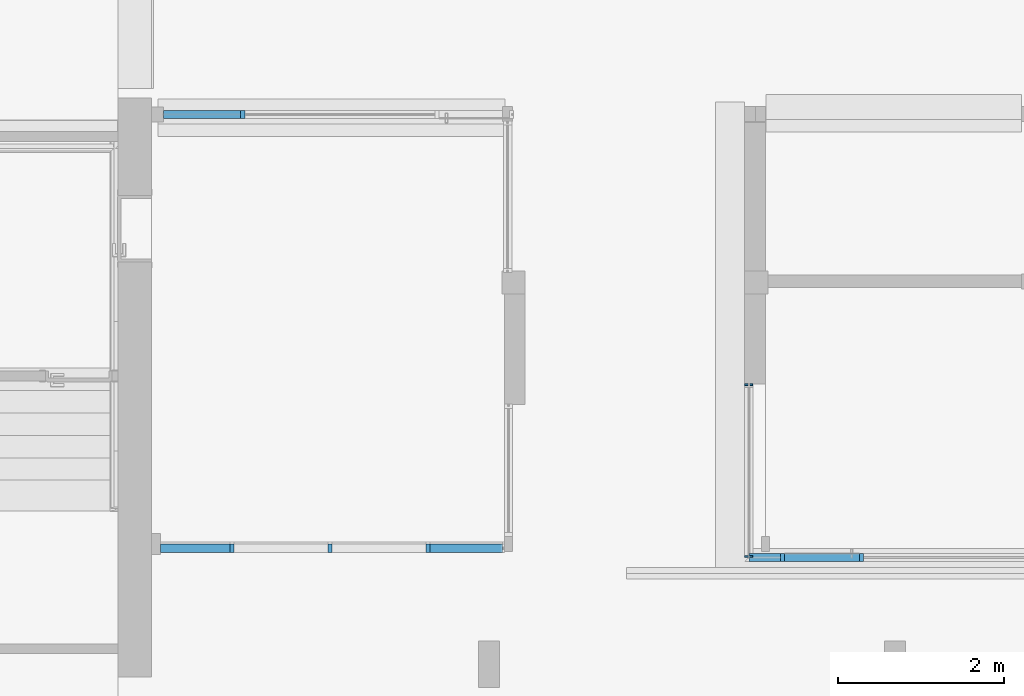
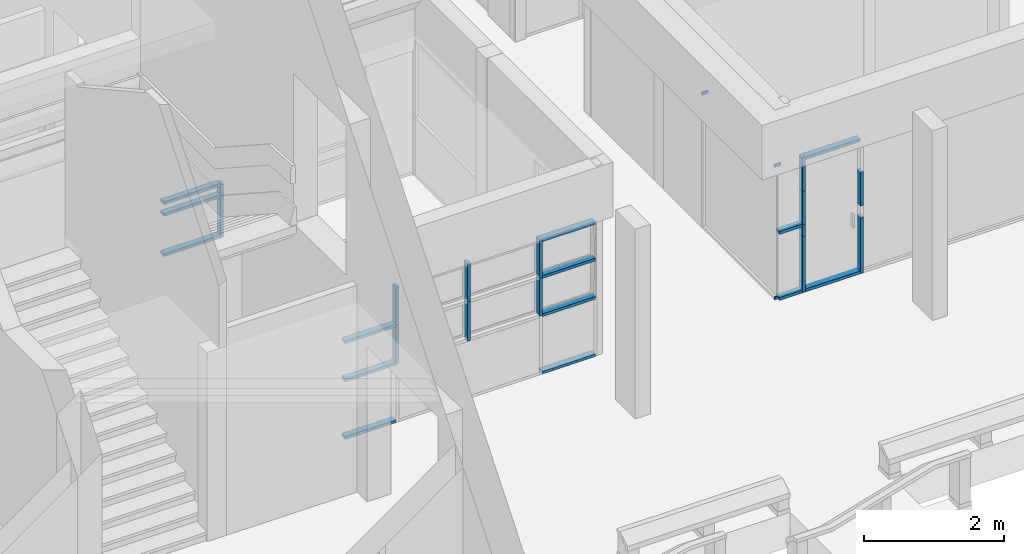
# One storey, part 16 of 117: 31 members, 4 elements without a shape of their own.
"""IFC4 building model written with IfcOpenShell, lengths in metres."""

from ifc_helpers import new_model, entity, si_unit, converted_unit, derived_unit, direction, frame, origin, place, context, subcontext, project, spatial, indexed_curve, outline, extrude, source, transform, mapped, material, type_object, type_shapes, element, aggregate, save


model = new_model("IFC4")

# Units and contexts
model_context = context("Model", 3, precision=1e-05, world=origin(), true_north=direction((6.123031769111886e-17, 1.0)))
body_context = subcontext(model_context, "Body", "Model", "MODEL_VIEW")
ifc_project = project(units=[si_unit("LENGTHUNIT", "METRE"), si_unit("AREAUNIT", "SQUARE_METRE"), si_unit("VOLUMEUNIT", "CUBIC_METRE"), converted_unit("PLANEANGLEUNIT", "DEGREE", entity("IfcRatioMeasure", 0.017453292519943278), si_unit("PLANEANGLEUNIT", "RADIAN"), dimensions=[0, 0, 0, 0, 0, 0, 0]), si_unit("MASSUNIT", "GRAM", prefix="KILO"), derived_unit("MASSDENSITYUNIT", [(si_unit("MASSUNIT", "GRAM", prefix="KILO"), 1), (si_unit("LENGTHUNIT", "METRE"), -3)]), derived_unit("MOMENTOFINERTIAUNIT", [(si_unit("LENGTHUNIT", "METRE"), 4)]), si_unit("TIMEUNIT", "SECOND"), si_unit("FREQUENCYUNIT", "HERTZ"), si_unit("THERMODYNAMICTEMPERATUREUNIT", "DEGREE_CELSIUS"), derived_unit("THERMALTRANSMITTANCEUNIT", [(si_unit("MASSUNIT", "GRAM", prefix="KILO"), 1), (si_unit("THERMODYNAMICTEMPERATUREUNIT", "KELVIN"), -1), (si_unit("TIMEUNIT", "SECOND"), -3)]), derived_unit("VOLUMETRICFLOWRATEUNIT", [(si_unit("LENGTHUNIT", "METRE"), 3), (si_unit("TIMEUNIT", "SECOND"), -1)]), derived_unit("MASSFLOWRATEUNIT", [(si_unit("MASSUNIT", "GRAM", prefix="KILO"), 1), (si_unit("TIMEUNIT", "SECOND"), -1)]), derived_unit("ROTATIONALFREQUENCYUNIT", [(si_unit("TIMEUNIT", "SECOND"), -1)]), si_unit("ELECTRICCURRENTUNIT", "AMPERE"), si_unit("ELECTRICVOLTAGEUNIT", "VOLT"), si_unit("POWERUNIT", "WATT"), si_unit("FORCEUNIT", "NEWTON", prefix="KILO"), si_unit("ILLUMINANCEUNIT", "LUX"), si_unit("LUMINOUSFLUXUNIT", "LUMEN"), si_unit("LUMINOUSINTENSITYUNIT", "CANDELA"), derived_unit("USERDEFINED", [(si_unit("MASSUNIT", "GRAM", prefix="KILO"), -1), (si_unit("LENGTHUNIT", "METRE"), -2), (si_unit("TIMEUNIT", "SECOND"), 3), (si_unit("LUMINOUSFLUXUNIT", "LUMEN"), 1)]), derived_unit("SOUNDPOWERUNIT", [(si_unit("MASSUNIT", "GRAM", prefix="KILO"), 1), (si_unit("LENGTHUNIT", "METRE"), 2), (si_unit("TIMEUNIT", "SECOND"), -3)]), derived_unit("SOUNDPRESSUREUNIT", [(si_unit("MASSUNIT", "GRAM", prefix="KILO"), 1), (si_unit("LENGTHUNIT", "METRE"), -1), (si_unit("TIMEUNIT", "SECOND"), -2)]), derived_unit("LINEARVELOCITYUNIT", [(si_unit("LENGTHUNIT", "METRE"), 1), (si_unit("TIMEUNIT", "SECOND"), -1)]), si_unit("PRESSUREUNIT", "PASCAL"), derived_unit("USERDEFINED", [(si_unit("LENGTHUNIT", "METRE"), -2), (si_unit("MASSUNIT", "GRAM", prefix="KILO"), 1), (si_unit("TIMEUNIT", "SECOND"), -2)]), derived_unit("LINEARFORCEUNIT", [(si_unit("MASSUNIT", "GRAM", prefix="KILO"), 1), (si_unit("LENGTHUNIT", "METRE"), 1), (si_unit("TIMEUNIT", "SECOND"), -2), (si_unit("LENGTHUNIT", "METRE"), -1)]), derived_unit("PLANARFORCEUNIT", [(si_unit("MASSUNIT", "GRAM", prefix="KILO"), 1), (si_unit("LENGTHUNIT", "METRE"), 1), (si_unit("TIMEUNIT", "SECOND"), -2), (si_unit("LENGTHUNIT", "METRE"), -2)])], contexts=[model_context])

# Site, building, storey
site_placement = place(None, origin())
site = spatial("IfcSite", under=ifc_project, at=site_placement, Name="Superficie", CompositionType="ELEMENT")
building_placement = place(site_placement, origin())
building = spatial("IfcBuilding", under=site, at=building_placement, CompositionType="ELEMENT")
storey_placement = place(building_placement, origin())
storey = spatial("IfcBuildingStorey", under=building, at=storey_placement, Name="Nivel 0", CompositionType="ELEMENT", Elevation=0.0)

# Curtain wall, members
curtain_wall_type = type_object("IfcCurtainWallType", Name="Muro cortina:Muro cortina - simple", PredefinedType="NOTDEFINED")
curtain_wall_1_placement = place(storey_placement, origin())
curtain_wall_1 = element("IfcCurtainWall", 1, at=curtain_wall_1_placement, inside=storey, type_object=curtain_wall_type, Name="Muro cortina:Muro cortina - simple", ObjectType="Muro cortina:Muro cortina - simple", PredefinedType="NOTDEFINED")
ifc_material = material(Name="<Unnamed>")
member_type_1 = type_object("IfcMemberType", Name="Montante rectangular:Montante rectangular - 5 x 10 cm", PredefinedType="MULLION", material=ifc_material)
shared_shape_1 = source(origin(), body_context, "Body", "SweptSolid", [
    extrude(outline(indexed_curve([(-0.05, -0.025), (0.05, -0.025), (0.05, 0.025), (-0.05, 0.025), (-0.05, -0.025)], self_intersect=False)), frame((-0.025, 0.0, -0.020000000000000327), z_axis=(0.0, 0.0, 1.0), x_axis=(0.0, -1.0, 0.0)), (0.0, 0.0, 1.0), 0.020000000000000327),
])
type_shapes(member_type_1, [shared_shape_1])
member_1_placement = place(curtain_wall_1_placement, frame((-15.448200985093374, -1.764170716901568, 2.35), z_axis=(0.0, -1.0, 0.0), x_axis=(0.0, 0.0, 1.0)))
member_1 = element("IfcMember", 2, at=member_1_placement, type_object=member_type_1, material=ifc_material, Name="Montante rectangular:Montante rectangular - 5 x 10 cm", ObjectType="Montante rectangular:Montante rectangular - 5 x 10 cm", PredefinedType="MULLION", context=body_context, shape_type="MappedRepresentation", body=[
    mapped(shared_shape_1, transform((0.0, 0.0, 0.0), scale=1.0)),
])
member_type_2 = type_object("IfcMemberType", Name="Montante rectangular:Montante rectangular - 5 x 10 cm", PredefinedType="MULLION", material=ifc_material)
shared_shape_2 = source(origin(), body_context, "Body", "SweptSolid", [
    extrude(outline(indexed_curve([(-0.05, -0.025), (0.05, -0.025), (0.05, 0.025), (-0.05, 0.025), (-0.05, -0.025)], self_intersect=False)), frame((-0.025, 0.0, -0.020000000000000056), z_axis=(0.0, 0.0, 1.0), x_axis=(0.0, -1.0, 0.0)), (0.0, 0.0, 1.0), 0.020000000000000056),
])
type_shapes(member_type_2, [shared_shape_2])
member_2_placement = place(curtain_wall_1_placement, frame((-15.44820098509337, 0.305829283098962, 2.35), z_axis=(0.0, -1.0, 0.0), x_axis=(0.0, 0.0, 1.0)))
member_2 = element("IfcMember", 3, at=member_2_placement, type_object=member_type_2, material=ifc_material, Name="Montante rectangular:Montante rectangular - 5 x 10 cm", ObjectType="Montante rectangular:Montante rectangular - 5 x 10 cm", PredefinedType="MULLION", context=body_context, shape_type="MappedRepresentation", body=[
    mapped(shared_shape_2, transform((0.0, 0.0, 0.0), scale=1.0)),
])
member_type_3 = type_object("IfcMemberType", Name="Montante rectangular:Montante rectangular - 5 x 10 cm", PredefinedType="MULLION", material=ifc_material)
shared_shape_3 = source(origin(), body_context, "Body", "SweptSolid", [
    extrude(outline(indexed_curve([(-0.05, -0.025), (0.05, -0.025), (0.05, 0.025), (-0.05, 0.025), (-0.05, -0.025)], self_intersect=False)), frame((0.0, 0.0, -0.020000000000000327), z_axis=(0.0, 0.0, 1.0), x_axis=(0.0, -1.0, 0.0)), (0.0, 0.0, 1.0), 0.020000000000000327),
])
type_shapes(member_type_3, [shared_shape_3])
member_3_placement = place(curtain_wall_1_placement, frame((-15.448200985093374, -1.764170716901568, 0.019999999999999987), z_axis=(0.0, -1.0, 0.0), x_axis=(0.0, 0.0, 1.0)))
member_3 = element("IfcMember", 4, at=member_3_placement, type_object=member_type_3, material=ifc_material, Name="Montante rectangular:Montante rectangular - 5 x 10 cm", ObjectType="Montante rectangular:Montante rectangular - 5 x 10 cm", PredefinedType="MULLION", context=body_context, shape_type="MappedRepresentation", body=[
    mapped(shared_shape_3, transform((0.0, 0.0, 0.0), scale=1.0)),
])
aggregate(curtain_wall_1, [member_1, member_2, member_3])

curtain_wall_2_placement = place(storey_placement, origin())
curtain_wall_2 = element("IfcCurtainWall", 5, at=curtain_wall_2_placement, inside=storey, type_object=curtain_wall_type, Name="Muro cortina:Muro cortina - simple", ObjectType="Muro cortina:Muro cortina - simple", PredefinedType="NOTDEFINED")
member_type_4 = type_object("IfcMemberType", Name="Montante rectangular:Montante rectangular - 5 x 10 cm", PredefinedType="MULLION", material=ifc_material)
shared_shape_4 = source(origin(), body_context, "Body", "SweptSolid", [
    extrude(outline(indexed_curve([(-0.05, -0.025), (0.05, -0.025), (0.05, 0.025), (-0.05, 0.025), (-0.05, -0.025)], self_intersect=False)), frame((0.0, 0.0, -0.8749999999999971), z_axis=(0.0, 0.0, 1.0), x_axis=(0.0, -1.0, 0.0)), (0.0, 0.0, 1.0), 0.874999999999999),
])
type_shapes(member_type_4, [shared_shape_4])
member_4_placement = place(curtain_wall_2_placement, frame((-19.28820098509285, -1.6541707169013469, 0.019999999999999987), z_axis=(-1.0, 0.0, 0.0), x_axis=(0.0, 0.0, 1.0)))
member_4 = element("IfcMember", 6, at=member_4_placement, type_object=member_type_4, material=ifc_material, Name="Montante rectangular:Montante rectangular - 5 x 10 cm", ObjectType="Montante rectangular:Montante rectangular - 5 x 10 cm", PredefinedType="MULLION", context=body_context, shape_type="MappedRepresentation", body=[
    mapped(shared_shape_4, transform((0.0, 0.0, 0.0), scale=1.0)),
])
member_5_placement = place(curtain_wall_2_placement, frame((-19.28820098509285, -1.6541707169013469, 1.0200000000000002), z_axis=(-1.0, 0.0, 0.0), x_axis=(0.0, 0.0, 1.0)))
member_5 = element("IfcMember", 7, at=member_5_placement, type_object=member_type_4, material=ifc_material, Name="Montante rectangular:Montante rectangular - 5 x 10 cm", ObjectType="Montante rectangular:Montante rectangular - 5 x 10 cm", PredefinedType="MULLION", context=body_context, shape_type="MappedRepresentation", body=[
    mapped(shared_shape_4, transform((0.0, 0.0, 0.0), scale=1.0)),
])
member_6_placement = place(curtain_wall_2_placement, frame((-19.28820098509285, -1.6541707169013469, 1.685), z_axis=(-1.0, 0.0, 0.0), x_axis=(0.0, 0.0, 1.0)))
member_6 = element("IfcMember", 8, at=member_6_placement, type_object=member_type_4, material=ifc_material, Name="Montante rectangular:Montante rectangular - 5 x 10 cm", ObjectType="Montante rectangular:Montante rectangular - 5 x 10 cm", PredefinedType="MULLION", context=body_context, shape_type="MappedRepresentation", body=[
    mapped(shared_shape_4, transform((0.0, 0.0, 0.0), scale=1.0)),
])
member_type_5 = type_object("IfcMemberType", Name="Montante rectangular:Montante rectangular - 5 x 10 cm", PredefinedType="MULLION", material=ifc_material)
shared_shape_5 = source(origin(), body_context, "Body", "SweptSolid", [
    extrude(outline(indexed_curve([(-0.05, -0.025), (0.05, -0.025), (0.05, 0.025), (-0.05, 0.025), (-0.05, -0.025)], self_intersect=False)), frame((0.0, 0.0, -0.8344348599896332), z_axis=(0.0, 0.0, 1.0), x_axis=(0.0, -1.0, 0.0)), (0.0, 0.0, 1.0), 0.8344348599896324),
])
type_shapes(member_type_5, [shared_shape_5])
member_7_placement = place(curtain_wall_2_placement, frame((-22.532635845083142, -1.6541707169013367, 0.019999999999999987), z_axis=(-1.0, 0.0, 0.0), x_axis=(0.0, 0.0, 1.0)))
member_7 = element("IfcMember", 9, at=member_7_placement, type_object=member_type_5, material=ifc_material, Name="Montante rectangular:Montante rectangular - 5 x 10 cm", ObjectType="Montante rectangular:Montante rectangular - 5 x 10 cm", PredefinedType="MULLION", context=body_context, shape_type="MappedRepresentation", body=[
    mapped(shared_shape_5, transform((0.0, 0.0, 0.0), scale=1.0)),
])
member_8_placement = place(curtain_wall_2_placement, frame((-22.532635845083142, -1.6541707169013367, 1.0200000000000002), z_axis=(-1.0, 0.0, 0.0), x_axis=(0.0, 0.0, 1.0)))
member_8 = element("IfcMember", 10, at=member_8_placement, type_object=member_type_5, material=ifc_material, Name="Montante rectangular:Montante rectangular - 5 x 10 cm", ObjectType="Montante rectangular:Montante rectangular - 5 x 10 cm", PredefinedType="MULLION", context=body_context, shape_type="MappedRepresentation", body=[
    mapped(shared_shape_5, transform((0.0, 0.0, 0.0), scale=1.0)),
])
member_9_placement = place(curtain_wall_2_placement, frame((-22.532635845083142, -1.6541707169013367, 1.685), z_axis=(-1.0, 0.0, 0.0), x_axis=(0.0, 0.0, 1.0)))
member_9 = element("IfcMember", 11, at=member_9_placement, type_object=member_type_5, material=ifc_material, Name="Montante rectangular:Montante rectangular - 5 x 10 cm", ObjectType="Montante rectangular:Montante rectangular - 5 x 10 cm", PredefinedType="MULLION", context=body_context, shape_type="MappedRepresentation", body=[
    mapped(shared_shape_5, transform((0.0, 0.0, 0.0), scale=1.0)),
])
member_type_6 = type_object("IfcMemberType", Name="Montante rectangular:Montante rectangular - 5 x 10 cm", PredefinedType="MULLION", material=ifc_material)
shared_shape_6 = source(origin(), body_context, "Body", "SweptSolid", [
    extrude(outline(indexed_curve([(-0.05, -0.025), (0.05, -0.025), (0.05, 0.025), (-0.05, 0.025), (-0.05, -0.025)], self_intersect=False)), frame((-0.025, 0.0, -0.8749999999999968), z_axis=(0.0, 0.0, 1.0), x_axis=(0.0, -1.0, 0.0)), (0.0, 0.0, 1.0), 0.8749999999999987),
])
type_shapes(member_type_6, [shared_shape_6])
member_10_placement = place(curtain_wall_2_placement, frame((-19.28820098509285, -1.6541707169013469, 2.35), z_axis=(-1.0, 0.0, 0.0), x_axis=(0.0, 0.0, 1.0)))
member_10 = element("IfcMember", 12, at=member_10_placement, type_object=member_type_6, material=ifc_material, Name="Montante rectangular:Montante rectangular - 5 x 10 cm", ObjectType="Montante rectangular:Montante rectangular - 5 x 10 cm", PredefinedType="MULLION", context=body_context, shape_type="MappedRepresentation", body=[
    mapped(shared_shape_6, transform((0.0, 0.0, 0.0), scale=1.0)),
])
member_type_7 = type_object("IfcMemberType", Name="Montante rectangular:Montante rectangular - 5 x 10 cm", PredefinedType="MULLION", material=ifc_material)
shared_shape_7 = source(origin(), body_context, "Body", "SweptSolid", [
    extrude(outline(indexed_curve([(-0.05, -0.025), (0.05, -0.025), (0.05, 0.025), (-0.05, 0.025), (-0.05, -0.025)], self_intersect=False)), frame((0.0, 0.0, -0.6649999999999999), z_axis=(0.0, 0.0, 1.0), x_axis=(0.0, -1.0, 0.0)), (0.0, 0.0, 1.0), 0.6649999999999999),
])
type_shapes(member_type_7, [shared_shape_7])
member_11_placement = place(curtain_wall_2_placement, frame((-21.67320098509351, -1.6541707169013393, 1.0200000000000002), z_axis=(0.0, 0.0, -1.0), x_axis=(-1.0, 0.0, 0.0)))
member_11 = element("IfcMember", 13, at=member_11_placement, type_object=member_type_7, material=ifc_material, Name="Montante rectangular:Montante rectangular - 5 x 10 cm", ObjectType="Montante rectangular:Montante rectangular - 5 x 10 cm", PredefinedType="MULLION", context=body_context, shape_type="MappedRepresentation", body=[
    mapped(shared_shape_7, transform((0.0, 0.0, 0.0), scale=1.0)),
])
member_12_placement = place(curtain_wall_2_placement, frame((-19.31320098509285, -1.6541707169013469, 1.0200000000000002), z_axis=(0.0, 0.0, -1.0), x_axis=(-1.0, 0.0, 0.0)))
member_12 = element("IfcMember", 14, at=member_12_placement, type_object=member_type_7, material=ifc_material, Name="Montante rectangular:Montante rectangular - 5 x 10 cm", ObjectType="Montante rectangular:Montante rectangular - 5 x 10 cm", PredefinedType="MULLION", context=body_context, shape_type="MappedRepresentation", body=[
    mapped(shared_shape_7, transform((0.0, 0.0, 0.0), scale=1.0)),
])
member_type_8 = type_object("IfcMemberType", Name="Montante rectangular:Montante rectangular - 5 x 10 cm", PredefinedType="MULLION", material=ifc_material)
shared_shape_8 = source(origin(), body_context, "Body", "SweptSolid", [
    extrude(outline(indexed_curve([(-0.05, -0.025), (0.05, -0.025), (0.05, 0.025), (-0.05, 0.025), (-0.05, -0.025)], self_intersect=False)), frame((0.0, 0.0, -0.6649999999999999), z_axis=(0.0, 0.0, 1.0), x_axis=(0.0, -1.0, 0.0)), (0.0, 0.0, 1.0), 0.6649999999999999),
])
type_shapes(member_type_8, [shared_shape_8])
member_13_placement = place(curtain_wall_2_placement, frame((-21.67320098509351, -1.6541707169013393, 1.685), z_axis=(0.0, 0.0, -1.0), x_axis=(-1.0, 0.0, 0.0)))
member_13 = element("IfcMember", 15, at=member_13_placement, type_object=member_type_8, material=ifc_material, Name="Montante rectangular:Montante rectangular - 5 x 10 cm", ObjectType="Montante rectangular:Montante rectangular - 5 x 10 cm", PredefinedType="MULLION", context=body_context, shape_type="MappedRepresentation", body=[
    mapped(shared_shape_8, transform((0.0, 0.0, 0.0), scale=1.0)),
])
member_14_placement = place(curtain_wall_2_placement, frame((-19.31320098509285, -1.6541707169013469, 1.685), z_axis=(0.0, 0.0, -1.0), x_axis=(-1.0, 0.0, 0.0)))
member_14 = element("IfcMember", 16, at=member_14_placement, type_object=member_type_8, material=ifc_material, Name="Montante rectangular:Montante rectangular - 5 x 10 cm", ObjectType="Montante rectangular:Montante rectangular - 5 x 10 cm", PredefinedType="MULLION", context=body_context, shape_type="MappedRepresentation", body=[
    mapped(shared_shape_8, transform((0.0, 0.0, 0.0), scale=1.0)),
])
member_15_placement = place(curtain_wall_2_placement, frame((-20.49320098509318, -1.654170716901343, 1.685), z_axis=(0.0, 0.0, -1.0), x_axis=(-1.0, 0.0, 0.0)))
member_15 = element("IfcMember", 17, at=member_15_placement, type_object=member_type_8, material=ifc_material, Name="Montante rectangular:Montante rectangular - 5 x 10 cm", ObjectType="Montante rectangular:Montante rectangular - 5 x 10 cm", PredefinedType="MULLION", context=body_context, shape_type="MappedRepresentation", body=[
    mapped(shared_shape_8, transform((0.0, 0.0, 0.0), scale=1.0)),
])
member_type_9 = type_object("IfcMemberType", Name="Montante rectangular:Montante rectangular - 5 x 10 cm", PredefinedType="MULLION", material=ifc_material)
shared_shape_9 = source(origin(), body_context, "Body", "SweptSolid", [
    extrude(outline(indexed_curve([(-0.05, -0.025), (0.05, -0.025), (0.05, 0.025), (-0.05, 0.025), (-0.05, -0.025)], self_intersect=False)), frame((0.0, 0.0, -0.6900000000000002), z_axis=(0.0, 0.0, 1.0), x_axis=(0.0, -1.0, 0.0)), (0.0, 0.0, 1.0), 0.6900000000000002),
])
type_shapes(member_type_9, [shared_shape_9])
member_16_placement = place(curtain_wall_2_placement, frame((-20.49320098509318, -1.654170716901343, 0.9950000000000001), z_axis=(0.0, 0.0, -1.0), x_axis=(-1.0, 0.0, 0.0)))
member_16 = element("IfcMember", 18, at=member_16_placement, type_object=member_type_9, material=ifc_material, Name="Montante rectangular:Montante rectangular - 5 x 10 cm", ObjectType="Montante rectangular:Montante rectangular - 5 x 10 cm", PredefinedType="MULLION", context=body_context, shape_type="MappedRepresentation", body=[
    mapped(shared_shape_9, transform((0.0, 0.0, 0.0), scale=1.0)),
])
aggregate(curtain_wall_2, [member_4, member_5, member_7, member_8, member_10, member_11, member_12, member_13, member_14, member_9, member_6, member_15, member_16])

curtain_wall_3_placement = place(storey_placement, origin())
curtain_wall_3 = element("IfcCurtainWall", 19, at=curtain_wall_3_placement, inside=storey, type_object=curtain_wall_type, Name="Muro cortina:Muro cortina - simple", ObjectType="Muro cortina:Muro cortina - simple", PredefinedType="NOTDEFINED")
member_type_10 = type_object("IfcMemberType", Name="Montante rectangular:Montante rectangular - 5 x 10 cm", PredefinedType="MULLION", material=ifc_material)
shared_shape_10 = source(origin(), body_context, "Body", "SweptSolid", [
    extrude(outline(indexed_curve([(-0.05, -0.025), (0.05, -0.025), (0.05, 0.025), (-0.05, 0.025), (-0.05, -0.025)], self_intersect=False)), frame((0.0, 0.0, -0.19999999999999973), z_axis=(0.0, 0.0, 1.0), x_axis=(0.0, -1.0, 0.0)), (0.0, 0.0, 1.0), 0.19999999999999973),
])
type_shapes(member_type_10, [shared_shape_10])
member_17_placement = place(curtain_wall_3_placement, frame((-21.54320098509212, 3.570829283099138, 0.7199999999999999), z_axis=(0.0, 0.0, -1.0), x_axis=(-1.0, 0.0, 0.0)))
member_17 = element("IfcMember", 20, at=member_17_placement, type_object=member_type_10, material=ifc_material, Name="Montante rectangular:Montante rectangular - 5 x 10 cm", ObjectType="Montante rectangular:Montante rectangular - 5 x 10 cm", PredefinedType="MULLION", context=body_context, shape_type="MappedRepresentation", body=[
    mapped(shared_shape_10, transform((0.0, 0.0, 0.0), scale=1.0)),
])
member_type_11 = type_object("IfcMemberType", Name="Montante rectangular:Montante rectangular - 5 x 10 cm", PredefinedType="MULLION", material=ifc_material)
shared_shape_11 = source(origin(), body_context, "Body", "SweptSolid", [
    extrude(outline(indexed_curve([(-0.05, -0.025), (0.05, -0.025), (0.05, 0.025), (-0.05, 0.025), (-0.05, -0.025)], self_intersect=False)), frame((0.0, 0.0, -0.7249999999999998), z_axis=(0.0, 0.0, 1.0), x_axis=(0.0, -1.0, 0.0)), (0.0, 0.0, 1.0), 0.7249999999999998),
])
type_shapes(member_type_11, [shared_shape_11])
member_18_placement = place(curtain_wall_3_placement, frame((-21.54320098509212, 3.570829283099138, -0.004999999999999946), z_axis=(0.0, 0.0, -1.0), x_axis=(-1.0, 0.0, 0.0)))
member_18 = element("IfcMember", 21, at=member_18_placement, type_object=member_type_11, material=ifc_material, Name="Montante rectangular:Montante rectangular - 5 x 10 cm", ObjectType="Montante rectangular:Montante rectangular - 5 x 10 cm", PredefinedType="MULLION", context=body_context, shape_type="MappedRepresentation", body=[
    mapped(shared_shape_11, transform((0.0, 0.0, 0.0), scale=1.0)),
])
member_type_12 = type_object("IfcMemberType", Name="Montante rectangular:Montante rectangular - 5 x 10 cm", PredefinedType="MULLION", material=ifc_material)
shared_shape_12 = source(origin(), body_context, "Body", "SweptSolid", [
    extrude(outline(indexed_curve([(-0.05, -0.025), (0.05, -0.025), (0.05, 0.025), (-0.05, 0.025), (-0.05, -0.025)], self_intersect=False)), frame((0.0, 0.0, -0.9302918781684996), z_axis=(0.0, 0.0, 1.0), x_axis=(0.0, -1.0, 0.0)), (0.0, 0.0, 1.0), 0.9302918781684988),
])
type_shapes(member_type_12, [shared_shape_12])
member_19_placement = place(curtain_wall_3_placement, frame((-22.49849286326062, 3.5708292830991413, 0.92), z_axis=(-1.0, 0.0, 0.0), x_axis=(0.0, 0.0, 1.0)))
member_19 = element("IfcMember", 22, at=member_19_placement, type_object=member_type_12, material=ifc_material, Name="Montante rectangular:Montante rectangular - 5 x 10 cm", ObjectType="Montante rectangular:Montante rectangular - 5 x 10 cm", PredefinedType="MULLION", context=body_context, shape_type="MappedRepresentation", body=[
    mapped(shared_shape_12, transform((0.0, 0.0, 0.0), scale=1.0)),
])
member_20_placement = place(curtain_wall_3_placement, frame((-22.49849286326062, 3.5708292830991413, 0.72), z_axis=(-1.0, 0.0, 0.0), x_axis=(0.0, 0.0, 1.0)))
member_20 = element("IfcMember", 23, at=member_20_placement, type_object=member_type_12, material=ifc_material, Name="Montante rectangular:Montante rectangular - 5 x 10 cm", ObjectType="Montante rectangular:Montante rectangular - 5 x 10 cm", PredefinedType="MULLION", context=body_context, shape_type="MappedRepresentation", body=[
    mapped(shared_shape_12, transform((0.0, 0.0, 0.0), scale=1.0)),
])
member_21_placement = place(curtain_wall_3_placement, frame((-22.49849286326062, 3.5708292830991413, 0.020000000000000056), z_axis=(-1.0, 0.0, 0.0), x_axis=(0.0, 0.0, 1.0)))
member_21 = element("IfcMember", 24, at=member_21_placement, type_object=member_type_12, material=ifc_material, Name="Montante rectangular:Montante rectangular - 5 x 10 cm", ObjectType="Montante rectangular:Montante rectangular - 5 x 10 cm", PredefinedType="MULLION", context=body_context, shape_type="MappedRepresentation", body=[
    mapped(shared_shape_12, transform((0.0, 0.0, 0.0), scale=1.0)),
])
aggregate(curtain_wall_3, [member_19, member_20, member_17, member_18, member_21])

curtain_wall_4_placement = place(storey_placement, origin())
curtain_wall_4 = element("IfcCurtainWall", 25, at=curtain_wall_4_placement, inside=storey, type_object=curtain_wall_type, Name="Muro cortina:Muro cortina - simple", ObjectType="Muro cortina:Muro cortina - simple", PredefinedType="NOTDEFINED")
member_type_13 = type_object("IfcMemberType", Name="Montante rectangular:Montante rectangular - 5 x 10 cm", PredefinedType="MULLION", material=ifc_material)
shared_shape_13 = source(origin(), body_context, "Body", "SweptSolid", [
    extrude(outline(indexed_curve([(-0.05, -0.025), (0.05, -0.025), (0.05, 0.025), (-0.05, 0.025), (-0.05, -0.025)], self_intersect=False)), frame((0.0, 0.0, -0.2), z_axis=(0.0, 0.0, 1.0), x_axis=(0.0, -1.0, 0.0)), (0.0, 0.0, 1.0), 0.2),
])
type_shapes(member_type_13, [shared_shape_13])
member_22_placement = place(curtain_wall_4_placement, frame((-15.043200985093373, -1.7641707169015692, 0.9750000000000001), z_axis=(0.0, 0.0, -1.0), x_axis=(1.0, 0.0, 0.0)))
member_22 = element("IfcMember", 26, at=member_22_placement, type_object=member_type_13, material=ifc_material, Name="Montante rectangular:Montante rectangular - 5 x 10 cm", ObjectType="Montante rectangular:Montante rectangular - 5 x 10 cm", PredefinedType="MULLION", context=body_context, shape_type="MappedRepresentation", body=[
    mapped(shared_shape_13, transform((0.0, 0.0, 0.0), scale=1.0)),
])
member_type_14 = type_object("IfcMemberType", Name="Montante rectangular:Montante rectangular - 5 x 10 cm", PredefinedType="MULLION", material=ifc_material)
shared_shape_14 = source(origin(), body_context, "Body", "SweptSolid", [
    extrude(outline(indexed_curve([(-0.05, -0.025), (0.05, -0.025), (0.05, 0.025), (-0.05, 0.025), (-0.05, -0.025)], self_intersect=False)), frame((-0.025, 0.0, -0.38000000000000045), z_axis=(0.0, 0.0, 1.0), x_axis=(0.0, -1.0, 0.0)), (0.0, 0.0, 1.0), 0.38000000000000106),
])
type_shapes(member_type_14, [shared_shape_14])
member_23_placement = place(curtain_wall_4_placement, frame((-15.448200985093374, -1.764170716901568, 0.0), z_axis=(-1.0, 0.0, 0.0), x_axis=(0.0, 0.0, -1.0)))
member_23 = element("IfcMember", 27, at=member_23_placement, type_object=member_type_14, material=ifc_material, Name="Montante rectangular:Montante rectangular - 5 x 10 cm", ObjectType="Montante rectangular:Montante rectangular - 5 x 10 cm", PredefinedType="MULLION", context=body_context, shape_type="MappedRepresentation", body=[
    mapped(shared_shape_14, transform((0.0, 0.0, 0.0), scale=1.0)),
])
member_type_15 = type_object("IfcMemberType", Name="Montante rectangular:Montante rectangular - 5 x 10 cm", PredefinedType="MULLION", material=ifc_material)
shared_shape_15 = source(origin(), body_context, "Body", "SweptSolid", [
    extrude(outline(indexed_curve([(-0.05, -0.025), (0.05, -0.025), (0.05, 0.025), (-0.05, 0.025), (-0.05, -0.025)], self_intersect=False)), frame((0.0, 0.0, -0.9750000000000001), z_axis=(0.0, 0.0, 1.0), x_axis=(0.0, -1.0, 0.0)), (0.0, 0.0, 1.0), 0.9750000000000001),
])
type_shapes(member_type_15, [shared_shape_15])
member_24_placement = place(curtain_wall_4_placement, frame((-14.093200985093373, -1.7641707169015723, 0.0), z_axis=(0.0, 0.0, -1.0), x_axis=(1.0, 0.0, 0.0)))
member_24 = element("IfcMember", 28, at=member_24_placement, type_object=member_type_15, material=ifc_material, Name="Montante rectangular:Montante rectangular - 5 x 10 cm", ObjectType="Montante rectangular:Montante rectangular - 5 x 10 cm", PredefinedType="MULLION", context=body_context, shape_type="MappedRepresentation", body=[
    mapped(shared_shape_15, transform((0.0, 0.0, 0.0), scale=1.0)),
])
member_25_placement = place(curtain_wall_4_placement, frame((-15.043200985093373, -1.7641707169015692, 0.0), z_axis=(0.0, 0.0, -1.0), x_axis=(1.0, 0.0, 0.0)))
member_25 = element("IfcMember", 29, at=member_25_placement, type_object=member_type_15, material=ifc_material, Name="Montante rectangular:Montante rectangular - 5 x 10 cm", ObjectType="Montante rectangular:Montante rectangular - 5 x 10 cm", PredefinedType="MULLION", context=body_context, shape_type="MappedRepresentation", body=[
    mapped(shared_shape_15, transform((0.0, 0.0, 0.0), scale=1.0)),
])
member_type_16 = type_object("IfcMemberType", Name="Montante rectangular:Montante rectangular - 5 x 10 cm", PredefinedType="MULLION", material=ifc_material)
shared_shape_16 = source(origin(), body_context, "Body", "SweptSolid", [
    extrude(outline(indexed_curve([(-0.05, -0.025), (0.05, -0.025), (0.05, 0.025), (-0.05, 0.025), (-0.05, -0.025)], self_intersect=False)), frame((-0.025, 0.0, -0.8999999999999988), z_axis=(0.0, 0.0, 1.0), x_axis=(0.0, -1.0, 0.0)), (0.0, 0.0, 1.0), 0.9000000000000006),
])
type_shapes(member_type_16, [shared_shape_16])
member_26_placement = place(curtain_wall_4_placement, frame((-15.018200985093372, -1.7641707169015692, 0.0), z_axis=(-1.0, 0.0, 0.0), x_axis=(0.0, 0.0, -1.0)))
member_26 = element("IfcMember", 30, at=member_26_placement, type_object=member_type_16, material=ifc_material, Name="Montante rectangular:Montante rectangular - 5 x 10 cm", ObjectType="Montante rectangular:Montante rectangular - 5 x 10 cm", PredefinedType="MULLION", context=body_context, shape_type="MappedRepresentation", body=[
    mapped(shared_shape_16, transform((0.0, 0.0, 0.0), scale=1.0)),
])
member_type_17 = type_object("IfcMemberType", Name="Montante rectangular:Montante rectangular - 5 x 10 cm", PredefinedType="MULLION", material=ifc_material)
shared_shape_17 = source(origin(), body_context, "Body", "SweptSolid", [
    extrude(outline(indexed_curve([(-0.05, -0.025), (0.05, -0.025), (0.05, 0.025), (-0.05, 0.025), (-0.05, -0.025)], self_intersect=False)), frame((-0.025, 0.0, -0.9000000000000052), z_axis=(0.0, 0.0, 1.0), x_axis=(0.0, -1.0, 0.0)), (0.0, 0.0, 1.0), 0.9000000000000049),
])
type_shapes(member_type_17, [shared_shape_17])
member_27_placement = place(curtain_wall_4_placement, frame((-14.118200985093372, -1.7641707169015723, 2.35), z_axis=(1.0, 0.0, 0.0), x_axis=(0.0, 0.0, 1.0)))
member_27 = element("IfcMember", 31, at=member_27_placement, type_object=member_type_17, material=ifc_material, Name="Montante rectangular:Montante rectangular - 5 x 10 cm", ObjectType="Montante rectangular:Montante rectangular - 5 x 10 cm", PredefinedType="MULLION", context=body_context, shape_type="MappedRepresentation", body=[
    mapped(shared_shape_17, transform((0.0, 0.0, 0.0), scale=1.0)),
])
member_type_18 = type_object("IfcMemberType", Name="Montante rectangular:Montante rectangular - 5 x 10 cm", PredefinedType="MULLION", material=ifc_material)
shared_shape_18 = source(origin(), body_context, "Body", "SweptSolid", [
    extrude(outline(indexed_curve([(-0.05, -0.025), (0.05, -0.025), (0.05, 0.025), (-0.05, 0.025), (-0.05, -0.025)], self_intersect=False)), frame((0.0, 0.0, -0.5874999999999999), z_axis=(0.0, 0.0, 1.0), x_axis=(0.0, -1.0, 0.0)), (0.0, 0.0, 1.0), 0.5874999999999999),
])
type_shapes(member_type_18, [shared_shape_18])
member_28_placement = place(curtain_wall_4_placement, frame((-14.093200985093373, -1.7641707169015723, 1.175), z_axis=(0.0, 0.0, -1.0), x_axis=(1.0, 0.0, 0.0)))
member_28 = element("IfcMember", 32, at=member_28_placement, type_object=member_type_18, material=ifc_material, Name="Montante rectangular:Montante rectangular - 5 x 10 cm", ObjectType="Montante rectangular:Montante rectangular - 5 x 10 cm", PredefinedType="MULLION", context=body_context, shape_type="MappedRepresentation", body=[
    mapped(shared_shape_18, transform((0.0, 0.0, 0.0), scale=1.0)),
])
member_type_19 = type_object("IfcMemberType", Name="Montante rectangular:Montante rectangular - 5 x 10 cm", PredefinedType="MULLION", material=ifc_material)
shared_shape_19 = source(origin(), body_context, "Body", "SweptSolid", [
    extrude(outline(indexed_curve([(-0.05, -0.025), (0.05, -0.025), (0.05, 0.025), (-0.05, 0.025), (-0.05, -0.025)], self_intersect=False)), frame((0.0, 0.0, -0.5874999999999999), z_axis=(0.0, 0.0, 1.0), x_axis=(0.0, -1.0, 0.0)), (0.0, 0.0, 1.0), 0.5874999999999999),
])
type_shapes(member_type_19, [shared_shape_19])
member_29_placement = place(curtain_wall_4_placement, frame((-15.043200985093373, -1.7641707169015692, 1.175), z_axis=(0.0, 0.0, -1.0), x_axis=(1.0, 0.0, 0.0)))
member_29 = element("IfcMember", 33, at=member_29_placement, type_object=member_type_19, material=ifc_material, Name="Montante rectangular:Montante rectangular - 5 x 10 cm", ObjectType="Montante rectangular:Montante rectangular - 5 x 10 cm", PredefinedType="MULLION", context=body_context, shape_type="MappedRepresentation", body=[
    mapped(shared_shape_19, transform((0.0, 0.0, 0.0), scale=1.0)),
])
member_type_20 = type_object("IfcMemberType", Name="Montante rectangular:Montante rectangular - 5 x 10 cm", PredefinedType="MULLION", material=ifc_material)
shared_shape_20 = source(origin(), body_context, "Body", "SweptSolid", [
    extrude(outline(indexed_curve([(-0.05, -0.025), (0.05, -0.025), (0.05, 0.025), (-0.05, 0.025), (-0.05, -0.025)], self_intersect=False)), frame((0.0, 0.0, -0.38000000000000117), z_axis=(0.0, 0.0, 1.0), x_axis=(0.0, -1.0, 0.0)), (0.0, 0.0, 1.0), 0.38000000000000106),
])
type_shapes(member_type_20, [shared_shape_20])
member_30_placement = place(curtain_wall_4_placement, frame((-15.068200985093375, -1.7641707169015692, 1.1750000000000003), z_axis=(1.0, 0.0, 0.0), x_axis=(0.0, 0.0, 1.0)))
member_30 = element("IfcMember", 34, at=member_30_placement, type_object=member_type_20, material=ifc_material, Name="Montante rectangular:Montante rectangular - 5 x 10 cm", ObjectType="Montante rectangular:Montante rectangular - 5 x 10 cm", PredefinedType="MULLION", context=body_context, shape_type="MappedRepresentation", body=[
    mapped(shared_shape_20, transform((0.0, 0.0, 0.0), scale=1.0)),
])
member_type_21 = type_object("IfcMemberType", Name="Montante rectangular:Montante rectangular - 5 x 10 cm", PredefinedType="MULLION", material=ifc_material)
shared_shape_21 = source(origin(), body_context, "Body", "SweptSolid", [
    extrude(outline(indexed_curve([(-0.05, -0.025), (0.05, -0.025), (0.05, 0.025), (-0.05, 0.025), (-0.05, -0.025)], self_intersect=False)), frame((0.0, 0.0, -0.5875000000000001), z_axis=(0.0, 0.0, 1.0), x_axis=(0.0, -1.0, 0.0)), (0.0, 0.0, 1.0), 0.5875000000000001),
])
type_shapes(member_type_21, [shared_shape_21])
member_31_placement = place(curtain_wall_4_placement, frame((-15.043200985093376, -1.7641707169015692, 1.7625), z_axis=(0.0, 0.0, -1.0), x_axis=(1.0, 0.0, 0.0)))
member_31 = element("IfcMember", 35, at=member_31_placement, type_object=member_type_21, material=ifc_material, Name="Montante rectangular:Montante rectangular - 5 x 10 cm", ObjectType="Montante rectangular:Montante rectangular - 5 x 10 cm", PredefinedType="MULLION", context=body_context, shape_type="MappedRepresentation", body=[
    mapped(shared_shape_21, transform((0.0, 0.0, 0.0), scale=1.0)),
])
aggregate(curtain_wall_4, [member_23, member_26, member_27, member_24, member_25, member_28, member_29, member_30, member_22, member_31])

save(model, "model.ifc")
